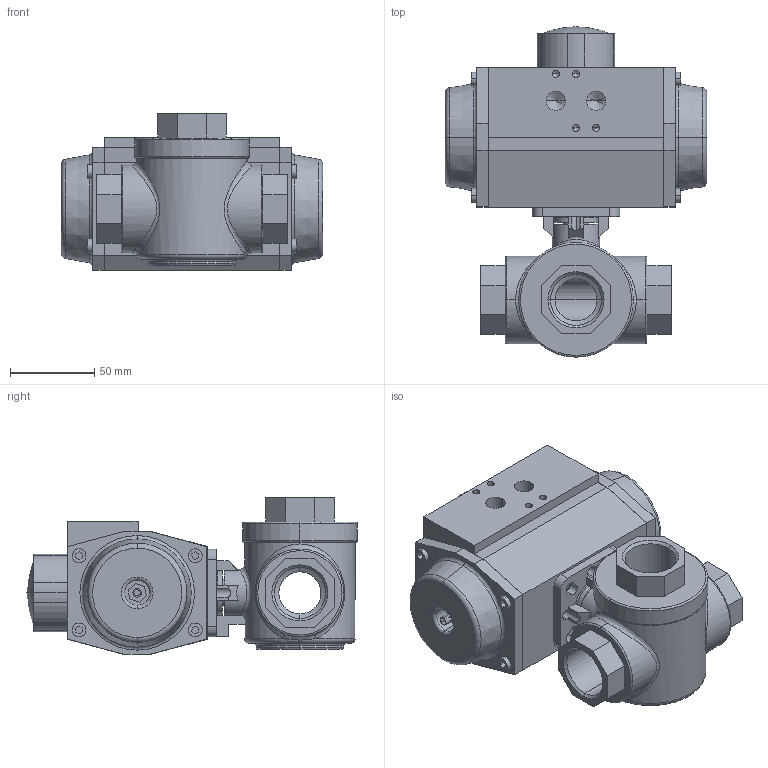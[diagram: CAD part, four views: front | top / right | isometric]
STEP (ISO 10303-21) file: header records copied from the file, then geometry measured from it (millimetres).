
FILE_DESCRIPTION (( 'STEP AP214' ), '1' );
FILE_NAME ('S57D DN25 G1 FB + AP2D.STEP', '2012-04-23T13:24:27', ( '' ), ( '' ), 'SwSTEP 2.0', 'SolidWorks 2011', '' );
FILE_SCHEMA (( 'AUTOMOTIVE_DESIGN' ));
Length unit declared in the file: millimetre
Products named in the file (3): AP2_Default<As Machined>; S57D DN25-G1 FB; S57D DN25 G1 FB + AP2D
Assembly tree (2 placements, depth 2):
  S57D DN25 G1 FB + AP2D
    S57D DN25-G1 FB
    AP2_Default<As Machined>
Bounding box: 155 x 195.99 x 93 mm (x, y, z)
Volume: 1140924.3 mm3; surface area: 127445.4 mm2
Topology: 9 solids, 9 shells, 442 faces, 1113 edges, 703 vertices
Faces by surface type: plane 248, cylinder 117, cone 44, torus 26, bspline 5, sphere 2
Entity records: 16281 total; most frequent: CARTESIAN_POINT 4384, DIRECTION 2261, ORIENTED_EDGE 2170, EDGE_CURVE 1085, AXIS2_PLACEMENT_3D 762, VECTOR 737, LINE 737, VERTEX_POINT 703
